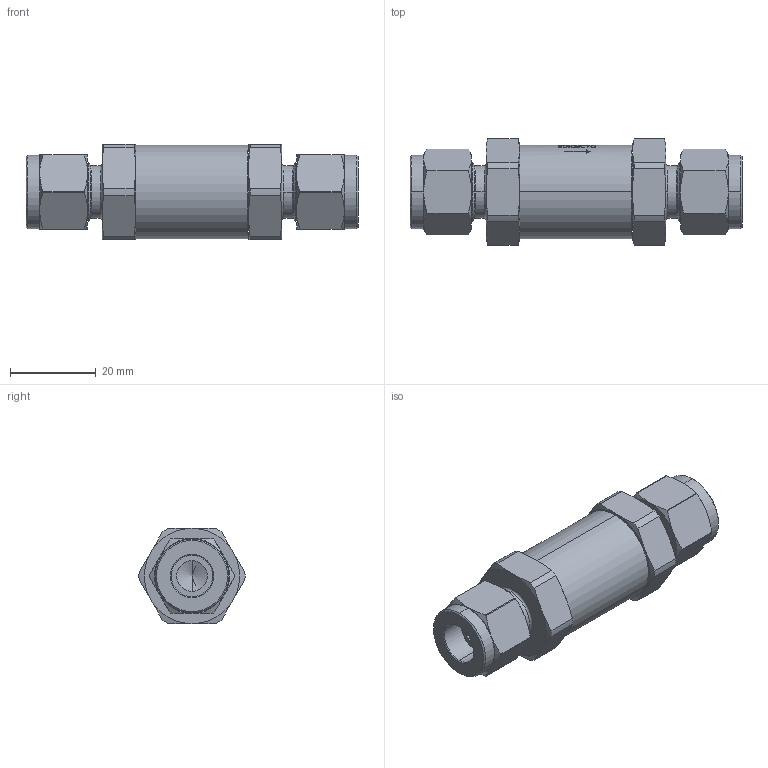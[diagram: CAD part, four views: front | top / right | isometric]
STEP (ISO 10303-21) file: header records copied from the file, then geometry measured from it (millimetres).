
FILE_DESCRIPTION (( 'STEP AP203' ), '1' );
FILE_NAME ('PCV-6T.STEP', '2017-06-21T14:13:05', ( '' ), ( '' ), 'SwSTEP 2.0', 'SolidWorks 2011', '' );
FILE_SCHEMA (( 'CONFIG_CONTROL_DESIGN' ));
Length unit declared in the file: inch
Products named in the file (2): PCV-6T; Part1^PCV-6T_CM
Assembly tree (1 placements, depth 2):
  PCV-6T
    Part1^PCV-6T_CM
Bounding box: 77.48 x 24.76 x 22.23 mm (x, y, z)
Volume: 22504.3 mm3; surface area: 7726.8 mm2
Topology: 1 solids, 1 shells, 377 faces, 973 edges, 630 vertices
Faces by surface type: plane 166, cone 68, bspline 68, cylinder 67, torus 8
Entity records: 15154 total; most frequent: CARTESIAN_POINT 6363, ORIENTED_EDGE 1938, DIRECTION 1558, EDGE_CURVE 969, VERTEX_POINT 630, AXIS2_PLACEMENT_3D 603, EDGE_LOOP 413, ADVANCED_FACE 377
